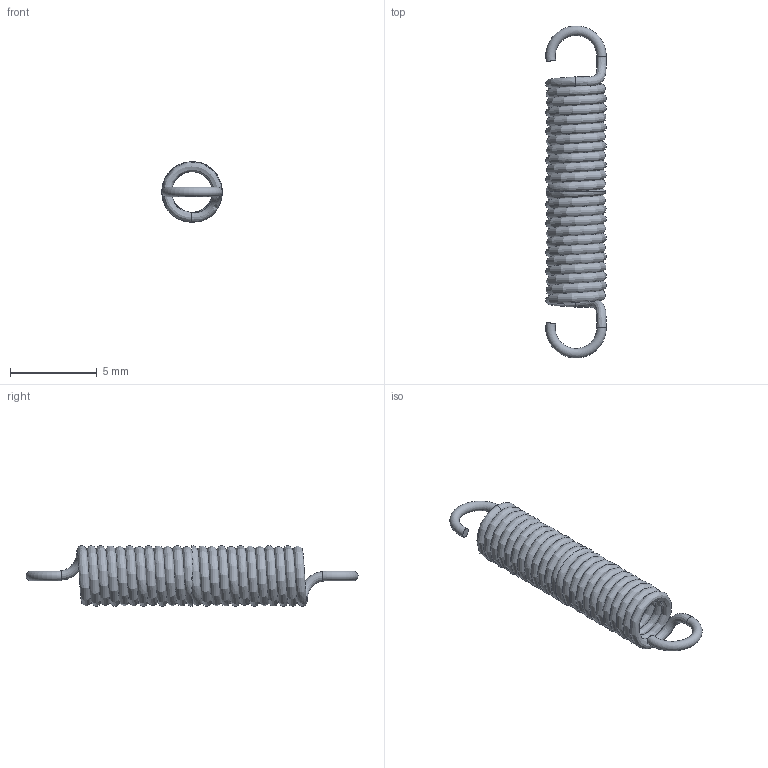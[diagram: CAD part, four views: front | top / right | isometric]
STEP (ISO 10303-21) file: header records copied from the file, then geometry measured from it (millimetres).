
FILE_DESCRIPTION(/* description */ ('15.7 | 1,45 | 0'),/* implementation_level */ '2;1');
FILE_NAME(/* name */ 'T10280.step',/* time_stamp */ '2026-10-05T09:47:32+02:00',/* author */ ('impex-ready.pl'),/* organization */ ('T10280'),/* preprocessor_version */ 'ST-DEVELOPER v20.1',/* originating_system */ 'Autodesk Inventor 2026',/* authorisation */ 'stal sprezynowa');
FILE_SCHEMA (('AUTOMOTIVE_DESIGN { 1 0 10303 214 3 1 1 }'));
Length unit declared in the file: millimetre
Products named in the file (1): T10280
Bounding box: 3.5 x 19.19 x 3.5 mm (x, y, z)
Volume: 54.8 mm3; surface area: 400.2 mm2
Topology: 1 solids, 1 shells, 10 faces, 34 edges, 22 vertices
Faces by surface type: plane 4, bspline 4, torus 2
Entity records: 5009 total; most frequent: CARTESIAN_POINT 4697, ORIENTED_EDGE 68, DIRECTION 42, EDGE_CURVE 34, VERTEX_POINT 22, AXIS2_PLACEMENT_3D 21, B_SPLINE_CURVE_WITH_KNOTS 20, CIRCLE 14
